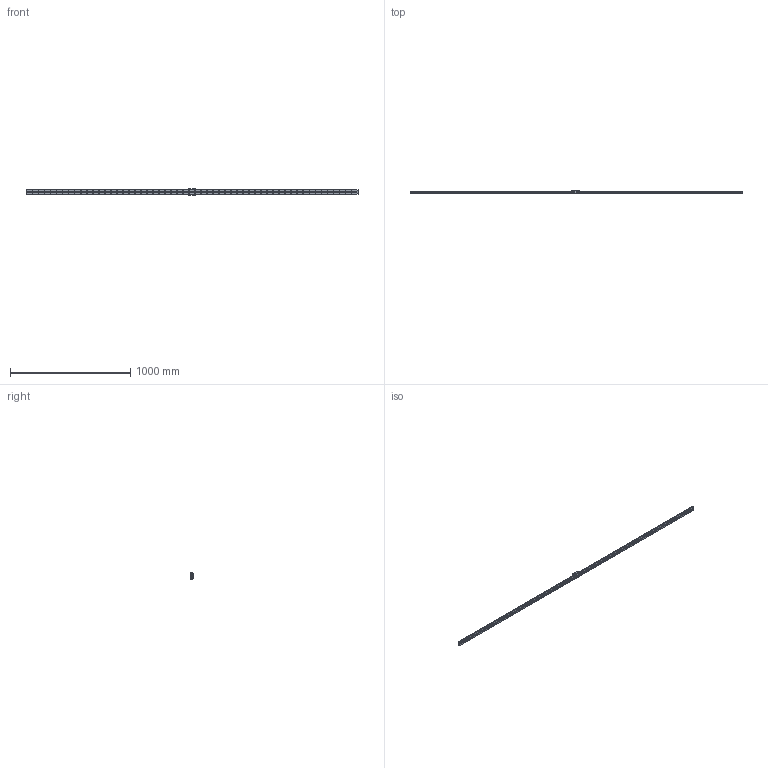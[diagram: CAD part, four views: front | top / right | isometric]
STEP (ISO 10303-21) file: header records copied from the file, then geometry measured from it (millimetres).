
FILE_DESCRIPTION(/* description */ ('STEP AP214'),/* implementation_level */ '2;1');
FILE_NAME(/* name */ 'HRW21CR1M-2760LTM_G5_0_B-M6F_1351-4_0_0_0_1',/* time_stamp */ '2023-09-26T15:15:05+02:00',/* author */ ('License CC BY-ND 4.0'),/* organization */ ('CADENAS'),/* preprocessor_version */ 'ST-DEVELOPER v19.3',/* originating_system */ 'PARTsolutions',/* authorisation */ ' ');
FILE_SCHEMA (('AUTOMOTIVE_DESIGN {1 0 10303 214 3 1 1}'));
Length unit declared in the file: millimetre
Products named in the file (4): HRW21CR1M-2760LTM_G5_0_B-M6F_1351-4_0_0_0_1; HRW-B-M6F_grease_nipple_joint; HRW21CRB-M6F1 Slide17-60; HRW21CR27605 Track
Assembly tree (3 placements, depth 2):
  HRW21CR1M-2760LTM_G5_0_B-M6F_1351-4_0_0_0_1
    HRW-B-M6F_grease_nipple_joint
    HRW21CRB-M6F1 Slide17-60
    HRW21CR27605 Track
Bounding box: 2760 x 21.12 x 54 mm (x, y, z)
Volume: 1033611.6 mm3; surface area: 306094.4 mm2
Topology: 3 solids, 3 shells, 528 faces, 1184 edges, 781 vertices
Faces by surface type: plane 252, cylinder 246, cone 21, torus 6, sphere 3
Full cylindrical faces by diameter (mm): 3 x4, 4.134 x4, 4.5 x112, 4.917 x2, 6 x1, 7.5 x112, 8 x1
Entity records: 14049 total; most frequent: DIRECTION 2472, CARTESIAN_POINT 2315, ORIENTED_EDGE 1820, FACE_BOUND 1137, EDGE_LOOP 1131, AXIS2_PLACEMENT_3D 1054, EDGE_CURVE 910, VERTEX_POINT 773
